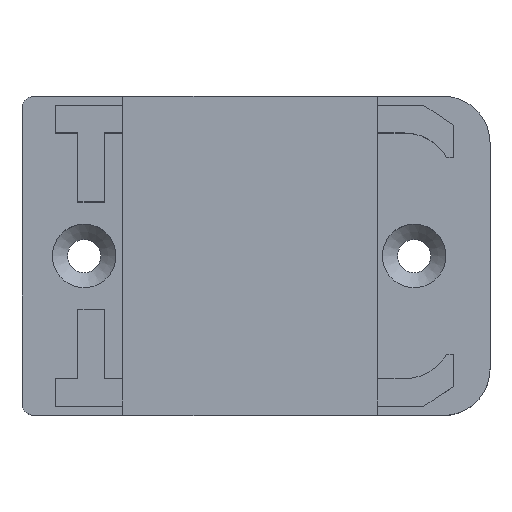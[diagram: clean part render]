
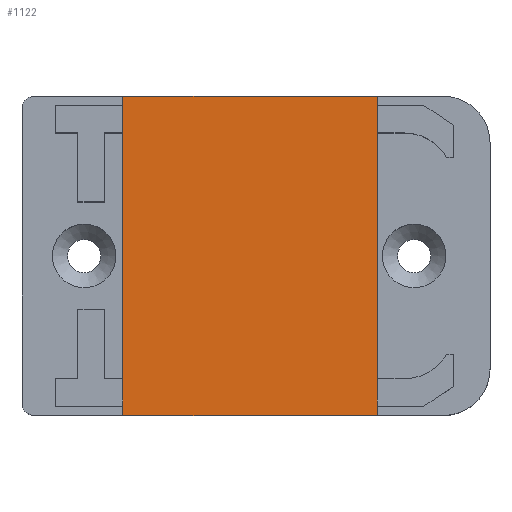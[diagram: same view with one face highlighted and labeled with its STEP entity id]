
A CAD part, top view. The second image highlights one B-rep face of the part: STEP entity #1122.
In plain terms, the highlighted planar face has unit normal (0, 0, 1).
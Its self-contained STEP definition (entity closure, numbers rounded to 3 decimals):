
#68=FACE_OUTER_BOUND('',#128,.T.);
#128=EDGE_LOOP('',(#835,#836,#837,#838));
#241=LINE('',#1725,#385);
#242=LINE('',#1727,#386);
#243=LINE('',#1729,#387);
#244=LINE('',#1730,#388);
#385=VECTOR('',#1385,10.);
#386=VECTOR('',#1386,10.);
#387=VECTOR('',#1387,10.);
#388=VECTOR('',#1388,10.);
#525=VERTEX_POINT('',#1723);
#526=VERTEX_POINT('',#1724);
#527=VERTEX_POINT('',#1726);
#528=VERTEX_POINT('',#1728);
#648=EDGE_CURVE('',#525,#526,#241,.T.);
#649=EDGE_CURVE('',#525,#527,#242,.T.);
#650=EDGE_CURVE('',#528,#527,#243,.T.);
#651=EDGE_CURVE('',#528,#526,#244,.T.);
#835=ORIENTED_EDGE('',*,*,#648,.F.);
#836=ORIENTED_EDGE('',*,*,#649,.T.);
#837=ORIENTED_EDGE('',*,*,#650,.F.);
#838=ORIENTED_EDGE('',*,*,#651,.T.);
#1073=PLANE('',#1205);
#1122=ADVANCED_FACE('',(#68),#1073,.T.);
#1205=AXIS2_PLACEMENT_3D('',#1722,#1383,#1384);
#1383=DIRECTION('center_axis',(0.,0.,1.));
#1384=DIRECTION('ref_axis',(1.,0.,0.));
#1385=DIRECTION('',(0.,-1.,0.));
#1386=DIRECTION('',(-1.,0.,0.));
#1387=DIRECTION('',(0.,1.,0.));
#1388=DIRECTION('',(1.,0.,0.));
#1722=CARTESIAN_POINT('Origin',(13.15,12.5,-4.25));
#1723=CARTESIAN_POINT('',(25.55,28.8,-4.25));
#1724=CARTESIAN_POINT('',(25.55,-3.8,-4.25));
#1725=CARTESIAN_POINT('',(25.55,6.225,-4.25));
#1726=CARTESIAN_POINT('',(-0.45,28.8,-4.25));
#1727=CARTESIAN_POINT('',(22.725,28.8,-4.25));
#1728=CARTESIAN_POINT('',(-0.45,-3.8,-4.25));
#1729=CARTESIAN_POINT('',(-0.45,18.775,-4.25));
#1730=CARTESIAN_POINT('',(1.825,-3.8,-4.25));
